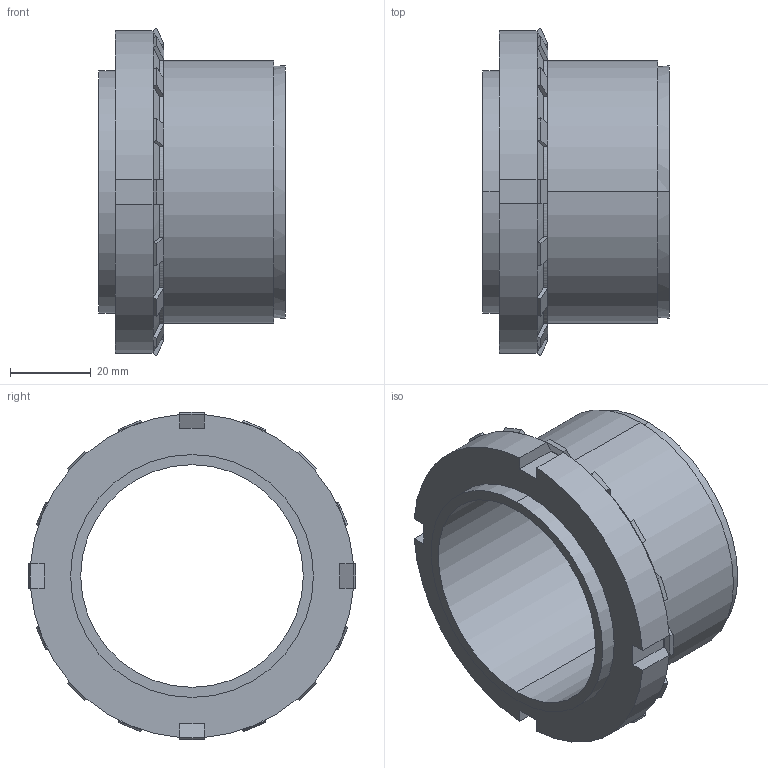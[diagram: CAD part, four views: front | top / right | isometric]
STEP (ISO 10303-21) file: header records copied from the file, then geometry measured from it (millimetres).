
FILE_DESCRIPTION (( 'STEP AP203' ), '1' );
FILE_NAME ('SI-55.STEP', '2009-09-29T17:23:00', ( 'USER' ), ( 'HOME' ), 'SwSTEP 2.0', 'SolidWorks 2007', '' );
FILE_SCHEMA (( 'CONFIG_CONTROL_DESIGN' ));
Length unit declared in the file: millimetre
Products named in the file (1): SI-55
Bounding box: 46 x 80.85 x 80.85 mm (x, y, z)
Volume: 79507.2 mm3; surface area: 89515 mm2
Topology: 19 solids, 19 shells, 232 faces, 574 edges, 380 vertices
Faces by surface type: plane 130, cylinder 94, cone 8
Entity records: 7067 total; most frequent: CARTESIAN_POINT 1259, DIRECTION 1220, ORIENTED_EDGE 1148, EDGE_CURVE 574, AXIS2_PLACEMENT_3D 429, VERTEX_POINT 380, VECTOR 362, LINE 362
